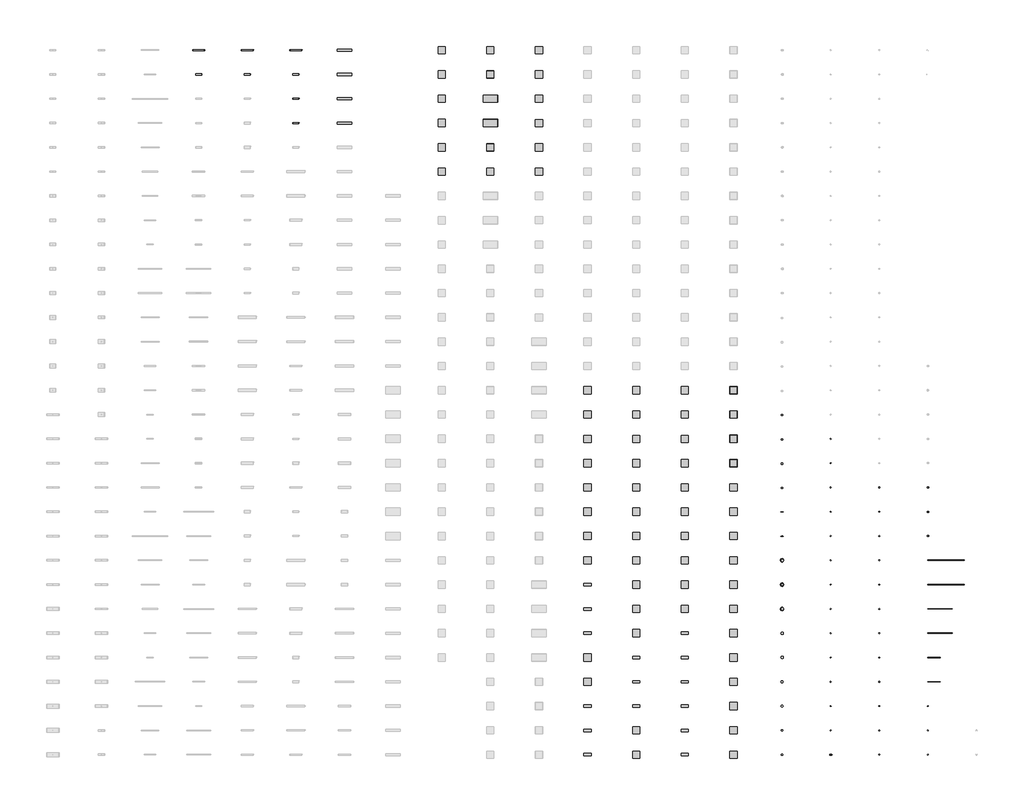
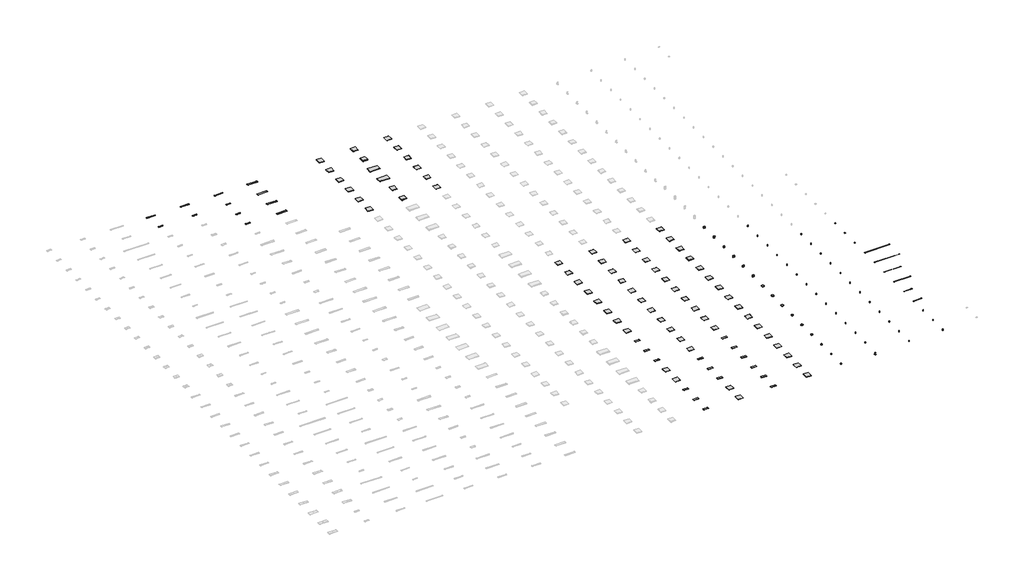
# One storey, part 4 of 7: 147 light fixtures.
"""IFC4 building model written with IfcOpenShell, lengths in millimetres."""

from ifc_helpers import new_model, si_unit, origin, place, context, project, spatial, transform, mapped, element, save
from components import light_fixture_e2a95042, light_fixture_3a991945, light_fixture_01780e7a, light_fixture_d8a4bb4c, light_fixture_4871c609, light_fixture_70e44551, light_fixture_14155fe5, light_fixture_35556cd1, light_fixture_69443bf1, light_fixture_58f65422, light_fixture_37fa3926, light_fixture_e045c9b8, light_fixture_10212c1c, light_fixture_d129a5be, light_fixture_f376c791, light_fixture_1a73ff57, light_fixture_39556fc3, light_fixture_520ac91d, light_fixture_1c399b53, light_fixture_77212832, light_fixture_0b942c4b, light_fixture_b82a3ef1, light_fixture_0e4e240a, light_fixture_68bc1c10, light_fixture_a84a45fd, light_fixture_0315b49b, light_fixture_f49424fd, light_fixture_769b3a39, light_fixture_b95e81a3

model = new_model("IFC4")

# Units and contexts
model_context = context("Model", 3, world=origin())
ifc_project = project(units=[si_unit("LENGTHUNIT", "METRE", prefix="MILLI")], contexts=[model_context])

# Site, building, storey
site = spatial("IfcSite", under=ifc_project)
building = spatial("IfcBuilding", under=site)
storey = spatial("IfcBuildingStorey", under=building, Name="Уровень 1", Elevation=0.0)

# Light fixtures
placement = place(None, origin())
light_fixture_shape = light_fixture_e2a95042(model_context)
element("IfcLightFixture", 1, ObjectType="GENILED_Светильник светодиодный_Titan Advanced : Titan Advanced 500x100x30 30Вт IP66 Матовое закаленное стекло", at=placement, inside=storey, context=model_context, shape_type="MappedRepresentation", body=[
    mapped(light_fixture_shape, transform((32000.0, 56000.0, 0.0), x_axis=(1.0, 0.0, 0.0), y_axis=(0.0, 1.0, 0.0), z_axis=(0.0, 0.0, 1.0))),
])
light_fixture_2_shape = light_fixture_3a991945(model_context)
element("IfcLightFixture", 2, ObjectType="GENILED_Светильник светодиодный_Titan Advanced : Titan Advanced 1000x100x25 40Вт IP66 Опал", at=placement, inside=storey, context=model_context, shape_type="MappedRepresentation", body=[
    mapped(light_fixture_2_shape, transform((32000.0, 58000.0, 0.0), x_axis=(1.0, 0.0, 0.0), y_axis=(0.0, 1.0, 0.0), z_axis=(0.0, 0.0, 1.0))),
])
element("IfcLightFixture", 3, ObjectType="GENILED_Светильник светодиодный_Titan Inox Advanced : Titan Inox Advanced 500x100x30 30Вт IP66 Матовое закаленное стекло", at=placement, inside=storey, context=model_context, shape_type="MappedRepresentation", body=[
    mapped(light_fixture_shape, transform((36000.0, 56000.0, 0.0), x_axis=(1.0, 0.0, 0.0), y_axis=(0.0, 1.0, 0.0), z_axis=(0.0, 0.0, 1.0))),
])
light_fixture_3_shape = light_fixture_01780e7a(model_context)
element("IfcLightFixture", 4, ObjectType="GENILED_Светильник светодиодный_Titan Inox Advanced : Titan Inox Advanced 1000x100x30 40Вт IP66 Матовое закаленное стекло", at=placement, inside=storey, context=model_context, shape_type="MappedRepresentation", body=[
    mapped(light_fixture_3_shape, transform((36000.0, 58000.0, 0.0), x_axis=(1.0, 0.0, 0.0), y_axis=(0.0, 1.0, 0.0), z_axis=(0.0, 0.0, 1.0))),
])
element("IfcLightFixture", 5, ObjectType="GENILED_Светильник светодиодный_Titan Standart : Titan Standart 500x100x30 20Вт IP66 Матовое закаленное стекло", at=placement, inside=storey, context=model_context, shape_type="MappedRepresentation", body=[
    mapped(light_fixture_shape, transform((40000.0, 52000.0, 0.0), x_axis=(1.0, 0.0, 0.0), y_axis=(0.0, 1.0, 0.0), z_axis=(0.0, 0.0, 1.0))),
])
light_fixture_4_shape = light_fixture_d8a4bb4c(model_context)
element("IfcLightFixture", 6, ObjectType="GENILED_Светильник светодиодный_Titan Standart : Titan Standart 500x100x25 30Вт IP66 Опал", at=placement, inside=storey, context=model_context, shape_type="MappedRepresentation", body=[
    mapped(light_fixture_4_shape, transform((40000.0, 54000.0, 0.0), x_axis=(1.0, 0.0, 0.0), y_axis=(0.0, 1.0, 0.0), z_axis=(0.0, 0.0, 1.0))),
])
element("IfcLightFixture", 7, ObjectType="GENILED_Светильник светодиодный_Titan Standart : Titan Standart 500x100x30 30Вт IP66 Матовое закаленное стекло", at=placement, inside=storey, context=model_context, shape_type="MappedRepresentation", body=[
    mapped(light_fixture_shape, transform((40000.0, 56000.0, 0.0), x_axis=(1.0, 0.0, 0.0), y_axis=(0.0, 1.0, 0.0), z_axis=(0.0, 0.0, 1.0))),
])
element("IfcLightFixture", 8, ObjectType="GENILED_Светильник светодиодный_Titan Standart : Titan Standart 1000x100x25 40Вт IP66 Опал", at=placement, inside=storey, context=model_context, shape_type="MappedRepresentation", body=[
    mapped(light_fixture_2_shape, transform((40000.0, 58000.0, 0.0), x_axis=(1.0, 0.0, 0.0), y_axis=(0.0, 1.0, 0.0), z_axis=(0.0, 0.0, 1.0))),
])
light_fixture_5_shape = light_fixture_4871c609(model_context)
element("IfcLightFixture", 9, ObjectType="GENILED_Светильник светодиодный_ЛПО Низковольтный : ЛПО 1200x180x20 60Вт 12В Опал", at=placement, inside=storey, context=model_context, shape_type="MappedRepresentation", body=[
    mapped(light_fixture_5_shape, transform((44000.0, 52000.0, 0.0), x_axis=(1.0, 0.0, 0.0), y_axis=(0.0, 1.0, 0.0), z_axis=(0.0, 0.0, 1.0))),
])
element("IfcLightFixture", 10, ObjectType="GENILED_Светильник светодиодный_ЛПО Низковольтный : ЛПО 1200x180x20 60Вт 24В Опал", at=placement, inside=storey, context=model_context, shape_type="MappedRepresentation", body=[
    mapped(light_fixture_5_shape, transform((44000.0, 54000.0, 0.0), x_axis=(1.0, 0.0, 0.0), y_axis=(0.0, 1.0, 0.0), z_axis=(0.0, 0.0, 1.0))),
])
element("IfcLightFixture", 11, ObjectType="GENILED_Светильник светодиодный_ЛПО Низковольтный : ЛПО 1200x180x20 60Вт 36В Опал", at=placement, inside=storey, context=model_context, shape_type="MappedRepresentation", body=[
    mapped(light_fixture_5_shape, transform((44000.0, 56000.0, 0.0), x_axis=(1.0, 0.0, 0.0), y_axis=(0.0, 1.0, 0.0), z_axis=(0.0, 0.0, 1.0))),
])
element("IfcLightFixture", 12, ObjectType="GENILED_Светильник светодиодный_ЛПО Низковольтный : ЛПО 1200x180x20 80Вт 12В Опал", at=placement, inside=storey, context=model_context, shape_type="MappedRepresentation", body=[
    mapped(light_fixture_5_shape, transform((44000.0, 58000.0, 0.0), x_axis=(1.0, 0.0, 0.0), y_axis=(0.0, 1.0, 0.0), z_axis=(0.0, 0.0, 1.0))),
])
light_fixture_6_shape = light_fixture_70e44551(model_context)
element("IfcLightFixture", 13, ObjectType="GENILED_Светильник светодиодный_Office Clip-In Standart : Office Clip-In Standart 600x600x60 60Вт IP54 Матовое закаленное стекло", at=placement, inside=storey, context=model_context, shape_type="MappedRepresentation", body=[
    mapped(light_fixture_6_shape, transform((52000.0, 48000.0, 0.0), x_axis=(1.0, 0.0, 0.0), y_axis=(0.0, 1.0, 0.0), z_axis=(0.0, 0.0, 1.0))),
])
element("IfcLightFixture", 14, ObjectType="GENILED_Светильник светодиодный_Office Clip-In Standart : Office Clip-In Standart 600x600x60 80Вт IP54 Матовое закаленное стекло", at=placement, inside=storey, context=model_context, shape_type="MappedRepresentation", body=[
    mapped(light_fixture_6_shape, transform((52000.0, 50000.0, 0.0), x_axis=(1.0, 0.0, 0.0), y_axis=(0.0, 1.0, 0.0), z_axis=(0.0, 0.0, 1.0))),
])
element("IfcLightFixture", 15, ObjectType="GENILED_Светильник светодиодный_Office Clip-In Standart : Office Clip-In Standart 600x600x60 100Вт IP54 Матовое закаленное стекло", at=placement, inside=storey, context=model_context, shape_type="MappedRepresentation", body=[
    mapped(light_fixture_6_shape, transform((52000.0, 52000.0, 0.0), x_axis=(1.0, 0.0, 0.0), y_axis=(0.0, 1.0, 0.0), z_axis=(0.0, 0.0, 1.0))),
])
element("IfcLightFixture", 16, ObjectType="GENILED_Светильник светодиодный_Office Clip-In Standart : Office Clip-In Standart 600x600x60 30Вт Матовое закаленное стекло", at=placement, inside=storey, context=model_context, shape_type="MappedRepresentation", body=[
    mapped(light_fixture_6_shape, transform((52000.0, 54000.0, 0.0), x_axis=(1.0, 0.0, 0.0), y_axis=(0.0, 1.0, 0.0), z_axis=(0.0, 0.0, 1.0))),
])
element("IfcLightFixture", 17, ObjectType="GENILED_Светильник светодиодный_Office Clip-In Standart : Office Clip-In Standart 600x600x60 40Вт Матовое закаленное стекло", at=placement, inside=storey, context=model_context, shape_type="MappedRepresentation", body=[
    mapped(light_fixture_6_shape, transform((52000.0, 56000.0, 0.0), x_axis=(1.0, 0.0, 0.0), y_axis=(0.0, 1.0, 0.0), z_axis=(0.0, 0.0, 1.0))),
])
element("IfcLightFixture", 18, ObjectType="GENILED_Светильник светодиодный_Office Clip-In Standart : Office Clip-In Standart 600x600x60 50Вт Матовое закаленное стекло", at=placement, inside=storey, context=model_context, shape_type="MappedRepresentation", body=[
    mapped(light_fixture_6_shape, transform((52000.0, 58000.0, 0.0), x_axis=(1.0, 0.0, 0.0), y_axis=(0.0, 1.0, 0.0), z_axis=(0.0, 0.0, 1.0))),
])
light_fixture_7_shape = light_fixture_14155fe5(model_context)
element("IfcLightFixture", 19, ObjectType="GENILED_Светильник светодиодный_Rockfon Comfort : Office Rockfon Comfort 600x600x70 45Вт Матовое закаленное стекло", at=placement, inside=storey, context=model_context, shape_type="MappedRepresentation", body=[
    mapped(light_fixture_7_shape, transform((56000.0, 48000.0, 0.0), x_axis=(1.0, 0.0, 0.0), y_axis=(0.0, 1.0, 0.0), z_axis=(0.0, 0.0, 1.0))),
])
element("IfcLightFixture", 20, ObjectType="GENILED_Светильник светодиодный_Rockfon Comfort : Office Rockfon Comfort 600x600x70 60Вт Матовое закаленное стекло", at=placement, inside=storey, context=model_context, shape_type="MappedRepresentation", body=[
    mapped(light_fixture_7_shape, transform((56000.0, 50000.0, 0.0), x_axis=(1.0, 0.0, 0.0), y_axis=(0.0, 1.0, 0.0), z_axis=(0.0, 0.0, 1.0))),
])
light_fixture_8_shape = light_fixture_35556cd1(model_context)
element("IfcLightFixture", 21, ObjectType="GENILED_Светильник светодиодный_Rockfon Comfort : Office Rockfon Comfort 1200x600x70 90Вт Опал", at=placement, inside=storey, context=model_context, shape_type="MappedRepresentation", body=[
    mapped(light_fixture_8_shape, transform((56000.0, 52000.0, 0.0), x_axis=(1.0, 0.0, 0.0), y_axis=(0.0, 1.0, 0.0), z_axis=(0.0, 0.0, 1.0))),
])
element("IfcLightFixture", 22, ObjectType="GENILED_Светильник светодиодный_Rockfon Comfort : Office Rockfon Comfort 1200x600x70 120Вт Опал", at=placement, inside=storey, context=model_context, shape_type="MappedRepresentation", body=[
    mapped(light_fixture_8_shape, transform((56000.0, 54000.0, 0.0), x_axis=(1.0, 0.0, 0.0), y_axis=(0.0, 1.0, 0.0), z_axis=(0.0, 0.0, 1.0))),
])
element("IfcLightFixture", 23, ObjectType="GENILED_Светильник светодиодный_Rockfon Standart : Office Rockfon Standart 600x600x70 30Вт Матовое закаленное стекло", at=placement, inside=storey, context=model_context, shape_type="MappedRepresentation", body=[
    mapped(light_fixture_7_shape, transform((56000.0, 56000.0, 0.0), x_axis=(1.0, 0.0, 0.0), y_axis=(0.0, 1.0, 0.0), z_axis=(0.0, 0.0, 1.0))),
])
element("IfcLightFixture", 24, ObjectType="GENILED_Светильник светодиодный_Rockfon Standart : Office Rockfon Standart 600x600x70 40Вт Матовое закаленное стекло", at=placement, inside=storey, context=model_context, shape_type="MappedRepresentation", body=[
    mapped(light_fixture_7_shape, transform((56000.0, 58000.0, 0.0), x_axis=(1.0, 0.0, 0.0), y_axis=(0.0, 1.0, 0.0), z_axis=(0.0, 0.0, 1.0))),
])
light_fixture_9_shape = light_fixture_69443bf1(model_context)
element("IfcLightFixture", 25, ObjectType="GENILED_Светильник светодиодный_Грильято Standart : Грильято Standart 588x588x20 60Вт 90Ra Опал", at=placement, inside=storey, context=model_context, shape_type="MappedRepresentation", body=[
    mapped(light_fixture_9_shape, transform((60000.0, 48000.0, 0.0), x_axis=(1.0, 0.0, 0.0), y_axis=(0.0, 1.0, 0.0), z_axis=(0.0, 0.0, 1.0))),
])
element("IfcLightFixture", 26, ObjectType="GENILED_Светильник светодиодный_Грильято Standart : Грильято Standart 588x588x20 30Вт 90Ra Опал", at=placement, inside=storey, context=model_context, shape_type="MappedRepresentation", body=[
    mapped(light_fixture_9_shape, transform((60000.0, 50000.0, 0.0), x_axis=(1.0, 0.0, 0.0), y_axis=(0.0, 1.0, 0.0), z_axis=(0.0, 0.0, 1.0))),
])
element("IfcLightFixture", 27, ObjectType="GENILED_Светильник светодиодный_Грильято Standart : Грильято Standart 588x588x20 40Вт 90Ra Опал", at=placement, inside=storey, context=model_context, shape_type="MappedRepresentation", body=[
    mapped(light_fixture_9_shape, transform((60000.0, 52000.0, 0.0), x_axis=(1.0, 0.0, 0.0), y_axis=(0.0, 1.0, 0.0), z_axis=(0.0, 0.0, 1.0))),
])
element("IfcLightFixture", 28, ObjectType="GENILED_Светильник светодиодный_Грильято Standart : Грильято Standart 588x588x20 50Вт 90Ra Опал", at=placement, inside=storey, context=model_context, shape_type="MappedRepresentation", body=[
    mapped(light_fixture_9_shape, transform((60000.0, 54000.0, 0.0), x_axis=(1.0, 0.0, 0.0), y_axis=(0.0, 1.0, 0.0), z_axis=(0.0, 0.0, 1.0))),
])
light_fixture_10_shape = light_fixture_58f65422(model_context)
element("IfcLightFixture", 29, ObjectType="GENILED_Светильник светодиодный_Офис Basic : Офис Basic 596x592x20 30Вт 4000К Опал", at=placement, inside=storey, context=model_context, shape_type="MappedRepresentation", body=[
    mapped(light_fixture_10_shape, transform((60000.0, 56000.0, 0.0), x_axis=(1.0, 0.0, 0.0), y_axis=(0.0, 1.0, 0.0), z_axis=(0.0, 0.0, 1.0))),
])
element("IfcLightFixture", 30, ObjectType="GENILED_Светильник светодиодный_Офис Basic : Офис Basic 596x592x20 40Вт 4000К Опал", at=placement, inside=storey, context=model_context, shape_type="MappedRepresentation", body=[
    mapped(light_fixture_10_shape, transform((60000.0, 58000.0, 0.0), x_axis=(1.0, 0.0, 0.0), y_axis=(0.0, 1.0, 0.0), z_axis=(0.0, 0.0, 1.0))),
])
light_fixture_11_shape = light_fixture_37fa3926(model_context)
element("IfcLightFixture", 31, ObjectType="GENILED_Светильник светодиодный_Офис Basic : Офис Basic 596x178x20 20Вт 4000К Опал", at=placement, inside=storey, context=model_context, shape_type="MappedRepresentation", body=[
    mapped(light_fixture_11_shape, transform((64000.0, 0.0, 0.0), x_axis=(1.0, 0.0, 0.0), y_axis=(0.0, 1.0, 0.0), z_axis=(0.0, 0.0, 1.0))),
])
element("IfcLightFixture", 32, ObjectType="GENILED_Светильник светодиодный_Офис Basic : Офис Basic 596х178х20 20Вт 4000К Микропризма", at=placement, inside=storey, context=model_context, shape_type="MappedRepresentation", body=[
    mapped(light_fixture_11_shape, transform((64000.0, 2000.0, 0.0), x_axis=(1.0, 0.0, 0.0), y_axis=(0.0, 1.0, 0.0), z_axis=(0.0, 0.0, 1.0))),
])
element("IfcLightFixture", 33, ObjectType="GENILED_Светильник светодиодный_Офис Basic : Офис Basic 596x178x20 30Вт 4000К Опал", at=placement, inside=storey, context=model_context, shape_type="MappedRepresentation", body=[
    mapped(light_fixture_11_shape, transform((64000.0, 4000.0, 0.0), x_axis=(1.0, 0.0, 0.0), y_axis=(0.0, 1.0, 0.0), z_axis=(0.0, 0.0, 1.0))),
])
element("IfcLightFixture", 34, ObjectType="GENILED_Светильник светодиодный_Офис Basic : Офис Basic 596x592x20 30Вт Ra90 4000К Опал", at=placement, inside=storey, context=model_context, shape_type="MappedRepresentation", body=[
    mapped(light_fixture_10_shape, transform((64000.0, 6000.0, 0.0), x_axis=(1.0, 0.0, 0.0), y_axis=(0.0, 1.0, 0.0), z_axis=(0.0, 0.0, 1.0))),
])
element("IfcLightFixture", 35, ObjectType="GENILED_Светильник светодиодный_Офис Basic : Офис Basic 596x592x20 40Вт Ra90 4000К Опал", at=placement, inside=storey, context=model_context, shape_type="MappedRepresentation", body=[
    mapped(light_fixture_10_shape, transform((64000.0, 8000.0, 0.0), x_axis=(1.0, 0.0, 0.0), y_axis=(0.0, 1.0, 0.0), z_axis=(0.0, 0.0, 1.0))),
])
element("IfcLightFixture", 36, ObjectType="GENILED_Светильник светодиодный_Офис Basic : Офис Basic 596х178х20 20Вт Ra90 4000К Опал", at=placement, inside=storey, context=model_context, shape_type="MappedRepresentation", body=[
    mapped(light_fixture_11_shape, transform((64000.0, 10000.0, 0.0), x_axis=(1.0, 0.0, 0.0), y_axis=(0.0, 1.0, 0.0), z_axis=(0.0, 0.0, 1.0))),
])
element("IfcLightFixture", 37, ObjectType="GENILED_Светильник светодиодный_Офис Basic : Офис Basic 596x178x20 20Вт Ra90 4000К Микропризма", at=placement, inside=storey, context=model_context, shape_type="MappedRepresentation", body=[
    mapped(light_fixture_11_shape, transform((64000.0, 12000.0, 0.0), x_axis=(1.0, 0.0, 0.0), y_axis=(0.0, 1.0, 0.0), z_axis=(0.0, 0.0, 1.0))),
])
element("IfcLightFixture", 38, ObjectType="GENILED_Светильник светодиодный_Офис Basic : Офис Basic 596x178x20 30Вт Ra90 4000К Опал", at=placement, inside=storey, context=model_context, shape_type="MappedRepresentation", body=[
    mapped(light_fixture_11_shape, transform((64000.0, 14000.0, 0.0), x_axis=(1.0, 0.0, 0.0), y_axis=(0.0, 1.0, 0.0), z_axis=(0.0, 0.0, 1.0))),
])
light_fixture_12_shape = light_fixture_e045c9b8(model_context)
element("IfcLightFixture", 39, ObjectType="GENILED_Светильник светодиодный_Офис Comfort : Office Comfort 595x595x60 45Вт Ra90 Опал", at=placement, inside=storey, context=model_context, shape_type="MappedRepresentation", body=[
    mapped(light_fixture_12_shape, transform((64000.0, 16000.0, 0.0), x_axis=(1.0, 0.0, 0.0), y_axis=(0.0, 1.0, 0.0), z_axis=(0.0, 0.0, 1.0))),
])
element("IfcLightFixture", 40, ObjectType="GENILED_Светильник светодиодный_Офис Comfort : Office Comfort 595x595x60 60Вт Ra90 Опал", at=placement, inside=storey, context=model_context, shape_type="MappedRepresentation", body=[
    mapped(light_fixture_12_shape, transform((64000.0, 18000.0, 0.0), x_axis=(1.0, 0.0, 0.0), y_axis=(0.0, 1.0, 0.0), z_axis=(0.0, 0.0, 1.0))),
])
element("IfcLightFixture", 41, ObjectType="GENILED_Светильник светодиодный_Офис Comfort : Office Comfort 595x595x60 75Вт Ra90 Опал", at=placement, inside=storey, context=model_context, shape_type="MappedRepresentation", body=[
    mapped(light_fixture_12_shape, transform((64000.0, 20000.0, 0.0), x_axis=(1.0, 0.0, 0.0), y_axis=(0.0, 1.0, 0.0), z_axis=(0.0, 0.0, 1.0))),
])
element("IfcLightFixture", 42, ObjectType="GENILED_Светильник светодиодный_Офис Comfort : Office Comfort 595x595x60 90Вт Ra90 Опал", at=placement, inside=storey, context=model_context, shape_type="MappedRepresentation", body=[
    mapped(light_fixture_12_shape, transform((64000.0, 22000.0, 0.0), x_axis=(1.0, 0.0, 0.0), y_axis=(0.0, 1.0, 0.0), z_axis=(0.0, 0.0, 1.0))),
])
element("IfcLightFixture", 43, ObjectType="GENILED_Светильник светодиодный_Офис Comfort : Office Comfort 595x595x60 45Вт Ra90 IP54 Опал", at=placement, inside=storey, context=model_context, shape_type="MappedRepresentation", body=[
    mapped(light_fixture_12_shape, transform((64000.0, 24000.0, 0.0), x_axis=(1.0, 0.0, 0.0), y_axis=(0.0, 1.0, 0.0), z_axis=(0.0, 0.0, 1.0))),
])
element("IfcLightFixture", 44, ObjectType="GENILED_Светильник светодиодный_Офис Comfort : Office Comfort 595x595x60 60Вт Ra90 IP54 Опал", at=placement, inside=storey, context=model_context, shape_type="MappedRepresentation", body=[
    mapped(light_fixture_12_shape, transform((64000.0, 26000.0, 0.0), x_axis=(1.0, 0.0, 0.0), y_axis=(0.0, 1.0, 0.0), z_axis=(0.0, 0.0, 1.0))),
])
element("IfcLightFixture", 45, ObjectType="GENILED_Светильник светодиодный_Офис Standart : Офис Standart 595x595x20 30Вт Ra90 Опал", at=placement, inside=storey, context=model_context, shape_type="MappedRepresentation", body=[
    mapped(light_fixture_10_shape, transform((64000.0, 28000.0, 0.0), x_axis=(1.0, 0.0, 0.0), y_axis=(0.0, 1.0, 0.0), z_axis=(0.0, 0.0, 1.0))),
])
element("IfcLightFixture", 46, ObjectType="GENILED_Светильник светодиодный_Офис Standart : Офис Standart 595x595x20 40Вт Ra90 Опал", at=placement, inside=storey, context=model_context, shape_type="MappedRepresentation", body=[
    mapped(light_fixture_10_shape, transform((64000.0, 30000.0, 0.0), x_axis=(1.0, 0.0, 0.0), y_axis=(0.0, 1.0, 0.0), z_axis=(0.0, 0.0, 1.0))),
])
light_fixture_13_shape = light_fixture_10212c1c(model_context)
element("IfcLightFixture", 47, ObjectType="GENILED_Светильник светодиодный_Офис Standart : Офис Standart 595x595x45 80Вт Ra90 IP54 Опал", at=placement, inside=storey, context=model_context, shape_type="MappedRepresentation", body=[
    mapped(light_fixture_13_shape, transform((68000.0, 0.0, 0.0), x_axis=(1.0, 0.0, 0.0), y_axis=(0.0, 1.0, 0.0), z_axis=(0.0, 0.0, 1.0))),
])
element("IfcLightFixture", 48, ObjectType="GENILED_Светильник светодиодный_Офис Standart : Офис Standart 595x595x45 100Вт Ra90 IP54 Опал", at=placement, inside=storey, context=model_context, shape_type="MappedRepresentation", body=[
    mapped(light_fixture_13_shape, transform((68000.0, 2000.0, 0.0), x_axis=(1.0, 0.0, 0.0), y_axis=(0.0, 1.0, 0.0), z_axis=(0.0, 0.0, 1.0))),
])
light_fixture_14_shape = light_fixture_d129a5be(model_context)
element("IfcLightFixture", 49, ObjectType="GENILED_Светильник светодиодный_Офис Standart : Офис Standart 595x200x40 20Вт Ra90 Опал", at=placement, inside=storey, context=model_context, shape_type="MappedRepresentation", body=[
    mapped(light_fixture_14_shape, transform((68000.0, 4000.0, 0.0), x_axis=(1.0, 0.0, 0.0), y_axis=(0.0, 1.0, 0.0), z_axis=(0.0, 0.0, 1.0))),
])
element("IfcLightFixture", 50, ObjectType="GENILED_Светильник светодиодный_Офис Standart : Офис Standart 595x200x40 30Вт Ra90 Опал", at=placement, inside=storey, context=model_context, shape_type="MappedRepresentation", body=[
    mapped(light_fixture_14_shape, transform((68000.0, 6000.0, 0.0), x_axis=(1.0, 0.0, 0.0), y_axis=(0.0, 1.0, 0.0), z_axis=(0.0, 0.0, 1.0))),
])
element("IfcLightFixture", 51, ObjectType="GENILED_Светильник светодиодный_Офис Standart : Офис Standart 595x200x40 40Вт Ra90 Опал", at=placement, inside=storey, context=model_context, shape_type="MappedRepresentation", body=[
    mapped(light_fixture_14_shape, transform((68000.0, 8000.0, 0.0), x_axis=(1.0, 0.0, 0.0), y_axis=(0.0, 1.0, 0.0), z_axis=(0.0, 0.0, 1.0))),
])
element("IfcLightFixture", 52, ObjectType="GENILED_Светильник светодиодный_Офис Standart : Офис Standart 595x595x20 30Вт Опал", at=placement, inside=storey, context=model_context, shape_type="MappedRepresentation", body=[
    mapped(light_fixture_10_shape, transform((68000.0, 10000.0, 0.0), x_axis=(1.0, 0.0, 0.0), y_axis=(0.0, 1.0, 0.0), z_axis=(0.0, 0.0, 1.0))),
])
element("IfcLightFixture", 53, ObjectType="GENILED_Светильник светодиодный_Офис Standart : Офис Standart 595x595x20 40Вт Опал", at=placement, inside=storey, context=model_context, shape_type="MappedRepresentation", body=[
    mapped(light_fixture_10_shape, transform((68000.0, 12000.0, 0.0), x_axis=(1.0, 0.0, 0.0), y_axis=(0.0, 1.0, 0.0), z_axis=(0.0, 0.0, 1.0))),
])
element("IfcLightFixture", 54, ObjectType="GENILED_Светильник светодиодный_Офис Standart : Офис Standart 595x595x20 50Вт Опал", at=placement, inside=storey, context=model_context, shape_type="MappedRepresentation", body=[
    mapped(light_fixture_10_shape, transform((68000.0, 14000.0, 0.0), x_axis=(1.0, 0.0, 0.0), y_axis=(0.0, 1.0, 0.0), z_axis=(0.0, 0.0, 1.0))),
])
element("IfcLightFixture", 55, ObjectType="GENILED_Светильник светодиодный_Офис Standart : Офис Standart 595x595x20 60Вт Опал", at=placement, inside=storey, context=model_context, shape_type="MappedRepresentation", body=[
    mapped(light_fixture_10_shape, transform((68000.0, 16000.0, 0.0), x_axis=(1.0, 0.0, 0.0), y_axis=(0.0, 1.0, 0.0), z_axis=(0.0, 0.0, 1.0))),
])
element("IfcLightFixture", 56, ObjectType="GENILED_Светильник светодиодный_Офис Standart : Офис Standart 595x595x20 80Вт Опал", at=placement, inside=storey, context=model_context, shape_type="MappedRepresentation", body=[
    mapped(light_fixture_10_shape, transform((68000.0, 18000.0, 0.0), x_axis=(1.0, 0.0, 0.0), y_axis=(0.0, 1.0, 0.0), z_axis=(0.0, 0.0, 1.0))),
])
element("IfcLightFixture", 57, ObjectType="GENILED_Светильник светодиодный_Офис Standart : Офис Standart 595x595x20 100Вт Опал", at=placement, inside=storey, context=model_context, shape_type="MappedRepresentation", body=[
    mapped(light_fixture_10_shape, transform((68000.0, 20000.0, 0.0), x_axis=(1.0, 0.0, 0.0), y_axis=(0.0, 1.0, 0.0), z_axis=(0.0, 0.0, 1.0))),
])
light_fixture_15_shape = light_fixture_f376c791(model_context)
element("IfcLightFixture", 58, ObjectType="GENILED_Светильник светодиодный_Офис Standart : Офис Standart 595х595х25 30Вт IP54 Опал", at=placement, inside=storey, context=model_context, shape_type="MappedRepresentation", body=[
    mapped(light_fixture_15_shape, transform((68000.0, 22000.0, 0.0), x_axis=(1.0, 0.0, 0.0), y_axis=(0.0, 1.0, 0.0), z_axis=(0.0, 0.0, 1.0))),
])
element("IfcLightFixture", 59, ObjectType="GENILED_Светильник светодиодный_Офис Standart : Офис Standart 595x595x25 30Вт IP54 Микропризма", at=placement, inside=storey, context=model_context, shape_type="MappedRepresentation", body=[
    mapped(light_fixture_15_shape, transform((68000.0, 24000.0, 0.0), x_axis=(1.0, 0.0, 0.0), y_axis=(0.0, 1.0, 0.0), z_axis=(0.0, 0.0, 1.0))),
])
element("IfcLightFixture", 60, ObjectType="GENILED_Светильник светодиодный_Офис Standart : Офис Standart 595x595x25 40Вт IP54 Опал", at=placement, inside=storey, context=model_context, shape_type="MappedRepresentation", body=[
    mapped(light_fixture_15_shape, transform((68000.0, 26000.0, 0.0), x_axis=(1.0, 0.0, 0.0), y_axis=(0.0, 1.0, 0.0), z_axis=(0.0, 0.0, 1.0))),
])
element("IfcLightFixture", 61, ObjectType="GENILED_Светильник светодиодный_Офис Standart : Офис Standart 595х595х25 40Вт IP54 Опал", at=placement, inside=storey, context=model_context, shape_type="MappedRepresentation", body=[
    mapped(light_fixture_15_shape, transform((68000.0, 28000.0, 0.0), x_axis=(1.0, 0.0, 0.0), y_axis=(0.0, 1.0, 0.0), z_axis=(0.0, 0.0, 1.0))),
])
element("IfcLightFixture", 62, ObjectType="GENILED_Светильник светодиодный_Офис Standart : Офис Standart 595x595x25 50Вт IP54 Опал", at=placement, inside=storey, context=model_context, shape_type="MappedRepresentation", body=[
    mapped(light_fixture_15_shape, transform((68000.0, 30000.0, 0.0), x_axis=(1.0, 0.0, 0.0), y_axis=(0.0, 1.0, 0.0), z_axis=(0.0, 0.0, 1.0))),
])
element("IfcLightFixture", 63, ObjectType="GENILED_Светильник светодиодный_Офис Standart : Офис Standart 595x200x40 20Вт Опал", at=placement, inside=storey, context=model_context, shape_type="MappedRepresentation", body=[
    mapped(light_fixture_14_shape, transform((72000.0, 0.0, 0.0), x_axis=(1.0, 0.0, 0.0), y_axis=(0.0, 1.0, 0.0), z_axis=(0.0, 0.0, 1.0))),
])
element("IfcLightFixture", 64, ObjectType="GENILED_Светильник светодиодный_Офис Standart : Офис Standart 595x200x40 30Вт Опал", at=placement, inside=storey, context=model_context, shape_type="MappedRepresentation", body=[
    mapped(light_fixture_14_shape, transform((72000.0, 2000.0, 0.0), x_axis=(1.0, 0.0, 0.0), y_axis=(0.0, 1.0, 0.0), z_axis=(0.0, 0.0, 1.0))),
])
element("IfcLightFixture", 65, ObjectType="GENILED_Светильник светодиодный_Офис Standart : Офис Standart 595x200x40 40Вт Опал", at=placement, inside=storey, context=model_context, shape_type="MappedRepresentation", body=[
    mapped(light_fixture_14_shape, transform((72000.0, 4000.0, 0.0), x_axis=(1.0, 0.0, 0.0), y_axis=(0.0, 1.0, 0.0), z_axis=(0.0, 0.0, 1.0))),
])
light_fixture_16_shape = light_fixture_1a73ff57(model_context)
element("IfcLightFixture", 66, ObjectType="GENILED_Светильник светодиодный_Офис Standart : Офис Standart 595x200x45 20Вт IP54 Опал", at=placement, inside=storey, context=model_context, shape_type="MappedRepresentation", body=[
    mapped(light_fixture_16_shape, transform((72000.0, 6000.0, 0.0), x_axis=(1.0, 0.0, 0.0), y_axis=(0.0, 1.0, 0.0), z_axis=(0.0, 0.0, 1.0))),
])
element("IfcLightFixture", 67, ObjectType="GENILED_Светильник светодиодный_Офис Standart : Офис Standart 595x200x45 30Вт IP54 Опал", at=placement, inside=storey, context=model_context, shape_type="MappedRepresentation", body=[
    mapped(light_fixture_16_shape, transform((72000.0, 8000.0, 0.0), x_axis=(1.0, 0.0, 0.0), y_axis=(0.0, 1.0, 0.0), z_axis=(0.0, 0.0, 1.0))),
])
element("IfcLightFixture", 68, ObjectType="GENILED_Светильник светодиодный_Офис Standart : Офис Standart 595x200x45 40Вт IP54 Опал", at=placement, inside=storey, context=model_context, shape_type="MappedRepresentation", body=[
    mapped(light_fixture_16_shape, transform((72000.0, 10000.0, 0.0), x_axis=(1.0, 0.0, 0.0), y_axis=(0.0, 1.0, 0.0), z_axis=(0.0, 0.0, 1.0))),
])
element("IfcLightFixture", 69, ObjectType="GENILED_Светильник светодиодный_Офис Низковольтный : Офис 595x595x20 30Вт 12В Опал", at=placement, inside=storey, context=model_context, shape_type="MappedRepresentation", body=[
    mapped(light_fixture_10_shape, transform((72000.0, 12000.0, 0.0), x_axis=(1.0, 0.0, 0.0), y_axis=(0.0, 1.0, 0.0), z_axis=(0.0, 0.0, 1.0))),
])
element("IfcLightFixture", 70, ObjectType="GENILED_Светильник светодиодный_Офис Низковольтный : Офис 595x595x20 30Вт 36В Опал", at=placement, inside=storey, context=model_context, shape_type="MappedRepresentation", body=[
    mapped(light_fixture_10_shape, transform((72000.0, 14000.0, 0.0), x_axis=(1.0, 0.0, 0.0), y_axis=(0.0, 1.0, 0.0), z_axis=(0.0, 0.0, 1.0))),
])
element("IfcLightFixture", 71, ObjectType="GENILED_Светильник светодиодный_Офис Низковольтный : Офис 595x595x20 40Вт 12В Опал", at=placement, inside=storey, context=model_context, shape_type="MappedRepresentation", body=[
    mapped(light_fixture_10_shape, transform((72000.0, 16000.0, 0.0), x_axis=(1.0, 0.0, 0.0), y_axis=(0.0, 1.0, 0.0), z_axis=(0.0, 0.0, 1.0))),
])
element("IfcLightFixture", 72, ObjectType="GENILED_Светильник светодиодный_Офис Низковольтный : Офис 595x595x20 40Вт 24В Опал", at=placement, inside=storey, context=model_context, shape_type="MappedRepresentation", body=[
    mapped(light_fixture_10_shape, transform((72000.0, 18000.0, 0.0), x_axis=(1.0, 0.0, 0.0), y_axis=(0.0, 1.0, 0.0), z_axis=(0.0, 0.0, 1.0))),
])
element("IfcLightFixture", 73, ObjectType="GENILED_Светильник светодиодный_Офис Низковольтный : Офис 595x595x20 50Вт 12В Опал", at=placement, inside=storey, context=model_context, shape_type="MappedRepresentation", body=[
    mapped(light_fixture_10_shape, transform((72000.0, 20000.0, 0.0), x_axis=(1.0, 0.0, 0.0), y_axis=(0.0, 1.0, 0.0), z_axis=(0.0, 0.0, 1.0))),
])
element("IfcLightFixture", 74, ObjectType="GENILED_Светильник светодиодный_Офис Низковольтный : Офис 595x595x20 60Вт 12В Опал", at=placement, inside=storey, context=model_context, shape_type="MappedRepresentation", body=[
    mapped(light_fixture_10_shape, transform((72000.0, 22000.0, 0.0), x_axis=(1.0, 0.0, 0.0), y_axis=(0.0, 1.0, 0.0), z_axis=(0.0, 0.0, 1.0))),
])
element("IfcLightFixture", 75, ObjectType="GENILED_Светильник светодиодный_Офис Низковольтный : Офис 595x595x20 60Вт 24В Опал", at=placement, inside=storey, context=model_context, shape_type="MappedRepresentation", body=[
    mapped(light_fixture_10_shape, transform((72000.0, 24000.0, 0.0), x_axis=(1.0, 0.0, 0.0), y_axis=(0.0, 1.0, 0.0), z_axis=(0.0, 0.0, 1.0))),
])
element("IfcLightFixture", 76, ObjectType="GENILED_Светильник светодиодный_Офис Низковольтный : Офис 595x595x20 60Вт 36В Опал", at=placement, inside=storey, context=model_context, shape_type="MappedRepresentation", body=[
    mapped(light_fixture_10_shape, transform((72000.0, 26000.0, 0.0), x_axis=(1.0, 0.0, 0.0), y_axis=(0.0, 1.0, 0.0), z_axis=(0.0, 0.0, 1.0))),
])
element("IfcLightFixture", 77, ObjectType="GENILED_Светильник светодиодный_Офис Низковольтный : Офис 595x595x20 80Вт 12В Опал", at=placement, inside=storey, context=model_context, shape_type="MappedRepresentation", body=[
    mapped(light_fixture_10_shape, transform((72000.0, 28000.0, 0.0), x_axis=(1.0, 0.0, 0.0), y_axis=(0.0, 1.0, 0.0), z_axis=(0.0, 0.0, 1.0))),
])
element("IfcLightFixture", 78, ObjectType="GENILED_Светильник светодиодный_Офис Низковольтный : Офис 595x595x20 80Вт 24В Опал", at=placement, inside=storey, context=model_context, shape_type="MappedRepresentation", body=[
    mapped(light_fixture_10_shape, transform((72000.0, 30000.0, 0.0), x_axis=(1.0, 0.0, 0.0), y_axis=(0.0, 1.0, 0.0), z_axis=(0.0, 0.0, 1.0))),
])
element("IfcLightFixture", 79, ObjectType="GENILED_Светильник светодиодный_Офис Низковольтный : Офис 595x595x45 30Вт 12В IP54 Опал", at=placement, inside=storey, context=model_context, shape_type="MappedRepresentation", body=[
    mapped(light_fixture_13_shape, transform((76000.0, 0.0, 0.0), x_axis=(1.0, 0.0, 0.0), y_axis=(0.0, 1.0, 0.0), z_axis=(0.0, 0.0, 1.0))),
])
element("IfcLightFixture", 80, ObjectType="GENILED_Светильник светодиодный_Офис Низковольтный : Офис 595x595x45 30Вт 36В IP54 Опал", at=placement, inside=storey, context=model_context, shape_type="MappedRepresentation", body=[
    mapped(light_fixture_13_shape, transform((76000.0, 2000.0, 0.0), x_axis=(1.0, 0.0, 0.0), y_axis=(0.0, 1.0, 0.0), z_axis=(0.0, 0.0, 1.0))),
])
element("IfcLightFixture", 81, ObjectType="GENILED_Светильник светодиодный_Офис Низковольтный : Офис 595x595x45 40Вт 24В IP54 Опал", at=placement, inside=storey, context=model_context, shape_type="MappedRepresentation", body=[
    mapped(light_fixture_13_shape, transform((76000.0, 4000.0, 0.0), x_axis=(1.0, 0.0, 0.0), y_axis=(0.0, 1.0, 0.0), z_axis=(0.0, 0.0, 1.0))),
])
element("IfcLightFixture", 82, ObjectType="GENILED_Светильник светодиодный_Офис Низковольтный : Офис 595x595x45 40Вт 12В IP54 Опал", at=placement, inside=storey, context=model_context, shape_type="MappedRepresentation", body=[
    mapped(light_fixture_13_shape, transform((76000.0, 6000.0, 0.0), x_axis=(1.0, 0.0, 0.0), y_axis=(0.0, 1.0, 0.0), z_axis=(0.0, 0.0, 1.0))),
])
element("IfcLightFixture", 83, ObjectType="GENILED_Светильник светодиодный_Офис Низковольтный : Офис 595x595x45 50Вт 12В IP54 Опал", at=placement, inside=storey, context=model_context, shape_type="MappedRepresentation", body=[
    mapped(light_fixture_13_shape, transform((76000.0, 8000.0, 0.0), x_axis=(1.0, 0.0, 0.0), y_axis=(0.0, 1.0, 0.0), z_axis=(0.0, 0.0, 1.0))),
])
element("IfcLightFixture", 84, ObjectType="GENILED_Светильник светодиодный_Офис Низковольтный : Офис 595x595x45 60Вт 24В IP54 Опал", at=placement, inside=storey, context=model_context, shape_type="MappedRepresentation", body=[
    mapped(light_fixture_13_shape, transform((76000.0, 10000.0, 0.0), x_axis=(1.0, 0.0, 0.0), y_axis=(0.0, 1.0, 0.0), z_axis=(0.0, 0.0, 1.0))),
])
element("IfcLightFixture", 85, ObjectType="GENILED_Светильник светодиодный_Офис Низковольтный : Офис 595x595x45 60Вт 36В IP54 Опал", at=placement, inside=storey, context=model_context, shape_type="MappedRepresentation", body=[
    mapped(light_fixture_13_shape, transform((76000.0, 12000.0, 0.0), x_axis=(1.0, 0.0, 0.0), y_axis=(0.0, 1.0, 0.0), z_axis=(0.0, 0.0, 1.0))),
])
element("IfcLightFixture", 86, ObjectType="GENILED_Светильник светодиодный_Офис Низковольтный : Офис 595x595x45 60Вт 12В IP54 Опал", at=placement, inside=storey, context=model_context, shape_type="MappedRepresentation", body=[
    mapped(light_fixture_13_shape, transform((76000.0, 14000.0, 0.0), x_axis=(1.0, 0.0, 0.0), y_axis=(0.0, 1.0, 0.0), z_axis=(0.0, 0.0, 1.0))),
])
element("IfcLightFixture", 87, ObjectType="GENILED_Светильник светодиодный_Офис Низковольтный : Офис 595x595x45 80Вт 24В IP54 Опал", at=placement, inside=storey, context=model_context, shape_type="MappedRepresentation", body=[
    mapped(light_fixture_13_shape, transform((76000.0, 16000.0, 0.0), x_axis=(1.0, 0.0, 0.0), y_axis=(0.0, 1.0, 0.0), z_axis=(0.0, 0.0, 1.0))),
])
element("IfcLightFixture", 88, ObjectType="GENILED_Светильник светодиодный_Офис Низковольтный : Офис 595x595x45 80Вт 12В IP54 Опал", at=placement, inside=storey, context=model_context, shape_type="MappedRepresentation", body=[
    mapped(light_fixture_13_shape, transform((76000.0, 18000.0, 0.0), x_axis=(1.0, 0.0, 0.0), y_axis=(0.0, 1.0, 0.0), z_axis=(0.0, 0.0, 1.0))),
])
element("IfcLightFixture", 89, ObjectType="GENILED_Светильник светодиодный_Офис Низковольтный : Офис 595x595x45 100Вт 24В IP54 Опал", at=placement, inside=storey, context=model_context, shape_type="MappedRepresentation", body=[
    mapped(light_fixture_13_shape, transform((76000.0, 20000.0, 0.0), x_axis=(1.0, 0.0, 0.0), y_axis=(0.0, 1.0, 0.0), z_axis=(0.0, 0.0, 1.0))),
])
element("IfcLightFixture", 90, ObjectType="GENILED_Светильник светодиодный_Офис Низковольтный : Офис 595x595x45 100Вт 12В IP54 Опал", at=placement, inside=storey, context=model_context, shape_type="MappedRepresentation", body=[
    mapped(light_fixture_13_shape, transform((76000.0, 22000.0, 0.0), x_axis=(1.0, 0.0, 0.0), y_axis=(0.0, 1.0, 0.0), z_axis=(0.0, 0.0, 1.0))),
])
light_fixture_17_shape = light_fixture_39556fc3(model_context)
element("IfcLightFixture", 91, ObjectType="GENILED_Светильник светодиодный_Экофон Advanced : Экофон Advanced 30Вт Опал", at=placement, inside=storey, context=model_context, shape_type="MappedRepresentation", body=[
    mapped(light_fixture_17_shape, transform((76000.0, 24000.0, 0.0), x_axis=(1.0, 0.0, 0.0), y_axis=(0.0, 1.0, 0.0), z_axis=(0.0, 0.0, 1.0))),
])
element("IfcLightFixture", 92, ObjectType="GENILED_Светильник светодиодный_Экофон Advanced : Экофон Advanced 40Вт Опал", at=placement, inside=storey, context=model_context, shape_type="MappedRepresentation", body=[
    mapped(light_fixture_17_shape, transform((76000.0, 26000.0, 0.0), x_axis=(1.0, 0.0, 0.0), y_axis=(0.0, 1.0, 0.0), z_axis=(0.0, 0.0, 1.0))),
])
element("IfcLightFixture", 93, ObjectType="GENILED_Светильник светодиодный_Экофон Advanced : Экофон Advanced 50Вт Опал", at=placement, inside=storey, context=model_context, shape_type="MappedRepresentation", body=[
    mapped(light_fixture_17_shape, transform((76000.0, 28000.0, 0.0), x_axis=(1.0, 0.0, 0.0), y_axis=(0.0, 1.0, 0.0), z_axis=(0.0, 0.0, 1.0))),
])
element("IfcLightFixture", 94, ObjectType="GENILED_Светильник светодиодный_Экофон Advanced : Экофон Advanced 60Вт Опал", at=placement, inside=storey, context=model_context, shape_type="MappedRepresentation", body=[
    mapped(light_fixture_17_shape, transform((76000.0, 30000.0, 0.0), x_axis=(1.0, 0.0, 0.0), y_axis=(0.0, 1.0, 0.0), z_axis=(0.0, 0.0, 1.0))),
])
light_fixture_18_shape = light_fixture_520ac91d(model_context)
element("IfcLightFixture", 95, ObjectType="GENILED_Светильник светодиодный_Ceiling Накладной : Сейлинг накладного монтажа d138 h60 10Вт 90Ra", at=placement, inside=storey, context=model_context, shape_type="MappedRepresentation", body=[
    mapped(light_fixture_18_shape, transform((80000.0, 0.0, 0.0), x_axis=(1.0, 0.0, 0.0), y_axis=(0.0, 1.0, 0.0), z_axis=(0.0, 0.0, 1.0))),
])
element("IfcLightFixture", 96, ObjectType="GENILED_Светильник светодиодный_Ceiling Накладной : Сейлинг накладного монтажа d138 h60 10Вт 90Ra Белый", at=placement, inside=storey, context=model_context, shape_type="MappedRepresentation", body=[
    mapped(light_fixture_18_shape, transform((80000.0, 2000.0, 0.0), x_axis=(1.0, 0.0, 0.0), y_axis=(0.0, 1.0, 0.0), z_axis=(0.0, 0.0, 1.0))),
])
light_fixture_19_shape = light_fixture_1c399b53(model_context)
element("IfcLightFixture", 97, ObjectType="GENILED_Светильник светодиодный_Ceiling Накладной : Сейлинг накладного монтажа d190 h60 20Вт 90Ra", at=placement, inside=storey, context=model_context, shape_type="MappedRepresentation", body=[
    mapped(light_fixture_19_shape, transform((80000.0, 4000.0, 0.0), x_axis=(1.0, 0.0, 0.0), y_axis=(0.0, 1.0, 0.0), z_axis=(0.0, 0.0, 1.0))),
])
element("IfcLightFixture", 98, ObjectType="GENILED_Светильник светодиодный_Ceiling Накладной : Сейлинг накладного монтажа d190 h60 20Вт 90Ra Белый", at=placement, inside=storey, context=model_context, shape_type="MappedRepresentation", body=[
    mapped(light_fixture_19_shape, transform((80000.0, 6000.0, 0.0), x_axis=(1.0, 0.0, 0.0), y_axis=(0.0, 1.0, 0.0), z_axis=(0.0, 0.0, 1.0))),
])
light_fixture_20_shape = light_fixture_77212832(model_context)
element("IfcLightFixture", 99, ObjectType="GENILED_Светильник светодиодный_Ceiling Накладной : Сейлинг накладного монтажа d224 h60 30Вт 90Ra", at=placement, inside=storey, context=model_context, shape_type="MappedRepresentation", body=[
    mapped(light_fixture_20_shape, transform((80000.0, 8000.0, 0.0), x_axis=(1.0, 0.0, 0.0), y_axis=(0.0, 1.0, 0.0), z_axis=(0.0, 0.0, 1.0))),
])
element("IfcLightFixture", 100, ObjectType="GENILED_Светильник светодиодный_Ceiling Накладной : Сейлинг накладного монтажа d224 h60 30Вт 90Ra Белый", at=placement, inside=storey, context=model_context, shape_type="MappedRepresentation", body=[
    mapped(light_fixture_20_shape, transform((80000.0, 10000.0, 0.0), x_axis=(1.0, 0.0, 0.0), y_axis=(0.0, 1.0, 0.0), z_axis=(0.0, 0.0, 1.0))),
])
light_fixture_21_shape = light_fixture_0b942c4b(model_context)
element("IfcLightFixture", 101, ObjectType="GENILED_Светильник светодиодный_Orbita : Orbita 300x64 24Вт 3000К IP54", at=placement, inside=storey, context=model_context, shape_type="MappedRepresentation", body=[
    mapped(light_fixture_21_shape, transform((80000.0, 12000.0, 0.0), x_axis=(1.0, 0.0, 0.0), y_axis=(0.0, 1.0, 0.0), z_axis=(0.0, 0.0, 1.0))),
])
element("IfcLightFixture", 102, ObjectType="GENILED_Светильник светодиодный_Orbita : Orbita 300x64 24Вт 4000К IP54", at=placement, inside=storey, context=model_context, shape_type="MappedRepresentation", body=[
    mapped(light_fixture_21_shape, transform((80000.0, 14000.0, 0.0), x_axis=(1.0, 0.0, 0.0), y_axis=(0.0, 1.0, 0.0), z_axis=(0.0, 0.0, 1.0))),
])
element("IfcLightFixture", 103, ObjectType="GENILED_Светильник светодиодный_Orbita : Orbita 300x64 24Вт 5000К IP54", at=placement, inside=storey, context=model_context, shape_type="MappedRepresentation", body=[
    mapped(light_fixture_21_shape, transform((80000.0, 16000.0, 0.0), x_axis=(1.0, 0.0, 0.0), y_axis=(0.0, 1.0, 0.0), z_axis=(0.0, 0.0, 1.0))),
])
light_fixture_22_shape = light_fixture_b82a3ef1(model_context)
element("IfcLightFixture", 104, ObjectType="GENILED_Светильник светодиодный_Public : Public 15W 4200К", at=placement, inside=storey, context=model_context, shape_type="MappedRepresentation", body=[
    mapped(light_fixture_22_shape, transform((80000.0, 18000.0, 0.0), x_axis=(1.0, 0.0, 0.0), y_axis=(0.0, 1.0, 0.0), z_axis=(0.0, 0.0, 1.0))),
])
element("IfcLightFixture", 105, ObjectType="GENILED_Светильник светодиодный_Public : Public Smart 15W 4200К", at=placement, inside=storey, context=model_context, shape_type="MappedRepresentation", body=[
    mapped(light_fixture_22_shape, transform((80000.0, 20000.0, 0.0), x_axis=(1.0, 0.0, 0.0), y_axis=(0.0, 1.0, 0.0), z_axis=(0.0, 0.0, 1.0))),
])
light_fixture_23_shape = light_fixture_0e4e240a(model_context)
element("IfcLightFixture", 106, ObjectType="GENILED_Светильник светодиодный_Sova : Sova mini 152x95x203 12Вт/3000К/4000К/5000К IP66", at=placement, inside=storey, context=model_context, shape_type="MappedRepresentation", body=[
    mapped(light_fixture_23_shape, transform((80000.0, 22000.0, 0.0), x_axis=(1.0, 0.0, 0.0), y_axis=(0.0, 1.0, 0.0), z_axis=(0.0, 0.0, 1.0))),
])
element("IfcLightFixture", 107, ObjectType="GENILED_Светильник светодиодный_Sova : Sova mini 152x95x203 14Вт/3000К/4000К/5000К IP66", at=placement, inside=storey, context=model_context, shape_type="MappedRepresentation", body=[
    mapped(light_fixture_23_shape, transform((80000.0, 24000.0, 0.0), x_axis=(1.0, 0.0, 0.0), y_axis=(0.0, 1.0, 0.0), z_axis=(0.0, 0.0, 1.0))),
])
element("IfcLightFixture", 108, ObjectType="GENILED_Светильник светодиодный_Sova : Sova mini 152x95x203 16Вт/3000К/4000К/5000К IP66", at=placement, inside=storey, context=model_context, shape_type="MappedRepresentation", body=[
    mapped(light_fixture_23_shape, transform((80000.0, 26000.0, 0.0), x_axis=(1.0, 0.0, 0.0), y_axis=(0.0, 1.0, 0.0), z_axis=(0.0, 0.0, 1.0))),
])
element("IfcLightFixture", 109, ObjectType="GENILED_Светильник светодиодный_Sova : Sova mini 152x95x203 16Вт/3000К/4000К/5000К IP66 Smart", at=placement, inside=storey, context=model_context, shape_type="MappedRepresentation", body=[
    mapped(light_fixture_23_shape, transform((80000.0, 28000.0, 0.0), x_axis=(1.0, 0.0, 0.0), y_axis=(0.0, 1.0, 0.0), z_axis=(0.0, 0.0, 1.0))),
])
light_fixture_24_shape = light_fixture_68bc1c10(model_context)
element("IfcLightFixture", 110, ObjectType="GENILED_Светильник светодиодный_Track Classic Zoom : Track Classic Zoom 40Вт 90Ra_60x25_Шинопровод_Белый", at=placement, inside=storey, context=model_context, shape_type="MappedRepresentation", body=[
    mapped(light_fixture_24_shape, transform((84000.0, 0.0, 0.0), x_axis=(1.0, 0.0, 0.0), y_axis=(0.0, 1.0, 0.0), z_axis=(0.0, 0.0, 1.0))),
])
light_fixture_25_shape = light_fixture_a84a45fd(model_context)
element("IfcLightFixture", 111, ObjectType="GENILED_Светодиодная лампа : Светодиодная лампа GU5.3 MR16 6Вт 2700К", at=placement, inside=storey, context=model_context, shape_type="MappedRepresentation", body=[
    mapped(light_fixture_25_shape, transform((84000.0, 2000.0, 0.0), x_axis=(1.0, 0.0, 0.0), y_axis=(0.0, 1.0, 0.0), z_axis=(0.0, 0.0, 1.0))),
])
element("IfcLightFixture", 112, ObjectType="GENILED_Светодиодная лампа : Светодиодная лампа E14 C37 6Вт 2700К матовая", at=placement, inside=storey, context=model_context, shape_type="MappedRepresentation", body=[
    mapped(light_fixture_25_shape, transform((84000.0, 4000.0, 0.0), x_axis=(1.0, 0.0, 0.0), y_axis=(0.0, 1.0, 0.0), z_axis=(0.0, 0.0, 1.0))),
])
element("IfcLightFixture", 113, ObjectType="GENILED_Светодиодная лампа : Светодиодная лампа E14 G45 6Вт 2700К матовая", at=placement, inside=storey, context=model_context, shape_type="MappedRepresentation", body=[
    mapped(light_fixture_25_shape, transform((84000.0, 6000.0, 0.0), x_axis=(1.0, 0.0, 0.0), y_axis=(0.0, 1.0, 0.0), z_axis=(0.0, 0.0, 1.0))),
])
element("IfcLightFixture", 114, ObjectType="GENILED_Светодиодная лампа : Светодиодная лампа E27 G45 6Вт 2700К матовая", at=placement, inside=storey, context=model_context, shape_type="MappedRepresentation", body=[
    mapped(light_fixture_25_shape, transform((84000.0, 8000.0, 0.0), x_axis=(1.0, 0.0, 0.0), y_axis=(0.0, 1.0, 0.0), z_axis=(0.0, 0.0, 1.0))),
])
element("IfcLightFixture", 115, ObjectType="GENILED_Светодиодная лампа : Светодиодная лампа E27 A60 7Вт 2700К", at=placement, inside=storey, context=model_context, shape_type="MappedRepresentation", body=[
    mapped(light_fixture_25_shape, transform((84000.0, 10000.0, 0.0), x_axis=(1.0, 0.0, 0.0), y_axis=(0.0, 1.0, 0.0), z_axis=(0.0, 0.0, 1.0))),
])
element("IfcLightFixture", 116, ObjectType="GENILED_Светодиодная лампа : Светодиодная лампа E14 G45 8Вт 2700К матовая", at=placement, inside=storey, context=model_context, shape_type="MappedRepresentation", body=[
    mapped(light_fixture_25_shape, transform((84000.0, 12000.0, 0.0), x_axis=(1.0, 0.0, 0.0), y_axis=(0.0, 1.0, 0.0), z_axis=(0.0, 0.0, 1.0))),
])
element("IfcLightFixture", 117, ObjectType="GENILED_Светодиодная лампа : Светодиодная лампа E27 G45 8Вт 2700К матовая", at=placement, inside=storey, context=model_context, shape_type="MappedRepresentation", body=[
    mapped(light_fixture_25_shape, transform((84000.0, 14000.0, 0.0), x_axis=(1.0, 0.0, 0.0), y_axis=(0.0, 1.0, 0.0), z_axis=(0.0, 0.0, 1.0))),
])
element("IfcLightFixture", 118, ObjectType="GENILED_Светодиодная лампа : Светодиодная лампа GU5.3 MR16 9Вт 2700К", at=placement, inside=storey, context=model_context, shape_type="MappedRepresentation", body=[
    mapped(light_fixture_25_shape, transform((84000.0, 16000.0, 0.0), x_axis=(1.0, 0.0, 0.0), y_axis=(0.0, 1.0, 0.0), z_axis=(0.0, 0.0, 1.0))),
])
element("IfcLightFixture", 119, ObjectType="GENILED_Светодиодная лампа : Светодиодная лампа GU10 MR16 9Вт 2700К", at=placement, inside=storey, context=model_context, shape_type="MappedRepresentation", body=[
    mapped(light_fixture_25_shape, transform((84000.0, 18000.0, 0.0), x_axis=(1.0, 0.0, 0.0), y_axis=(0.0, 1.0, 0.0), z_axis=(0.0, 0.0, 1.0))),
])
element("IfcLightFixture", 120, ObjectType="GENILED_Светодиодная лампа : Светодиодная лампа E14 C37 9Вт 2700К матовая", at=placement, inside=storey, context=model_context, shape_type="MappedRepresentation", body=[
    mapped(light_fixture_25_shape, transform((84000.0, 20000.0, 0.0), x_axis=(1.0, 0.0, 0.0), y_axis=(0.0, 1.0, 0.0), z_axis=(0.0, 0.0, 1.0))),
])
element("IfcLightFixture", 121, ObjectType="GENILED_Светодиодная лампа : Светодиодная лампа E27 G45 9Вт 2700К матовая", at=placement, inside=storey, context=model_context, shape_type="MappedRepresentation", body=[
    mapped(light_fixture_25_shape, transform((84000.0, 22000.0, 0.0), x_axis=(1.0, 0.0, 0.0), y_axis=(0.0, 1.0, 0.0), z_axis=(0.0, 0.0, 1.0))),
])
element("IfcLightFixture", 122, ObjectType="GENILED_Светодиодная лампа : Светодиодная лампа E14 G45 9Вт 2700К матовая", at=placement, inside=storey, context=model_context, shape_type="MappedRepresentation", body=[
    mapped(light_fixture_25_shape, transform((84000.0, 24000.0, 0.0), x_axis=(1.0, 0.0, 0.0), y_axis=(0.0, 1.0, 0.0), z_axis=(0.0, 0.0, 1.0))),
])
element("IfcLightFixture", 123, ObjectType="GENILED_Светодиодная лампа : Светодиодная лампа GX53 10Вт 2700К", at=placement, inside=storey, context=model_context, shape_type="MappedRepresentation", body=[
    mapped(light_fixture_25_shape, transform((84000.0, 26000.0, 0.0), x_axis=(1.0, 0.0, 0.0), y_axis=(0.0, 1.0, 0.0), z_axis=(0.0, 0.0, 1.0))),
])
element("IfcLightFixture", 124, ObjectType="GENILED_Светодиодная лампа : Светодиодная лампа GU10 MR16 9Вт 3000K 90Ra", at=placement, inside=storey, context=model_context, shape_type="MappedRepresentation", body=[
    mapped(light_fixture_25_shape, transform((88000.0, 0.0, 0.0), x_axis=(1.0, 0.0, 0.0), y_axis=(0.0, 1.0, 0.0), z_axis=(0.0, 0.0, 1.0))),
])
element("IfcLightFixture", 125, ObjectType="GENILED_Светодиодная лампа : Светодиодная лампа GU10 MR16 9Вт 3000K 90Ra линза", at=placement, inside=storey, context=model_context, shape_type="MappedRepresentation", body=[
    mapped(light_fixture_25_shape, transform((88000.0, 2000.0, 0.0), x_axis=(1.0, 0.0, 0.0), y_axis=(0.0, 1.0, 0.0), z_axis=(0.0, 0.0, 1.0))),
])
element("IfcLightFixture", 126, ObjectType="GENILED_Светодиодная лампа : Светодиодная лампа GU5.3 MR16 9Вт 3000K 90Ra", at=placement, inside=storey, context=model_context, shape_type="MappedRepresentation", body=[
    mapped(light_fixture_25_shape, transform((88000.0, 4000.0, 0.0), x_axis=(1.0, 0.0, 0.0), y_axis=(0.0, 1.0, 0.0), z_axis=(0.0, 0.0, 1.0))),
])
element("IfcLightFixture", 127, ObjectType="GENILED_Светодиодная лампа : Светодиодная лампа GX53 8Вт 3000K 90Ra", at=placement, inside=storey, context=model_context, shape_type="MappedRepresentation", body=[
    mapped(light_fixture_25_shape, transform((88000.0, 6000.0, 0.0), x_axis=(1.0, 0.0, 0.0), y_axis=(0.0, 1.0, 0.0), z_axis=(0.0, 0.0, 1.0))),
])
element("IfcLightFixture", 128, ObjectType="GENILED_Светодиодная лампа : Светодиодная лампа GX53 10Вт 3000K 90Ra", at=placement, inside=storey, context=model_context, shape_type="MappedRepresentation", body=[
    mapped(light_fixture_25_shape, transform((88000.0, 8000.0, 0.0), x_axis=(1.0, 0.0, 0.0), y_axis=(0.0, 1.0, 0.0), z_axis=(0.0, 0.0, 1.0))),
])
element("IfcLightFixture", 129, ObjectType="GENILED_Светодиодная лампа : Светодиодная лампа E27 A60 10Вт 4000К 90Ra", at=placement, inside=storey, context=model_context, shape_type="MappedRepresentation", body=[
    mapped(light_fixture_25_shape, transform((88000.0, 10000.0, 0.0), x_axis=(1.0, 0.0, 0.0), y_axis=(0.0, 1.0, 0.0), z_axis=(0.0, 0.0, 1.0))),
])
element("IfcLightFixture", 130, ObjectType="GENILED_Светодиодная лампа : Светодиодная лампа E27 A60 12Вт 4000К 90Ra", at=placement, inside=storey, context=model_context, shape_type="MappedRepresentation", body=[
    mapped(light_fixture_25_shape, transform((88000.0, 12000.0, 0.0), x_axis=(1.0, 0.0, 0.0), y_axis=(0.0, 1.0, 0.0), z_axis=(0.0, 0.0, 1.0))),
])
element("IfcLightFixture", 131, ObjectType="GENILED_Светодиодная лампа : Светодиодная лампа E27 A60 16Вт 4000K 90Ra", at=placement, inside=storey, context=model_context, shape_type="MappedRepresentation", body=[
    mapped(light_fixture_25_shape, transform((88000.0, 14000.0, 0.0), x_axis=(1.0, 0.0, 0.0), y_axis=(0.0, 1.0, 0.0), z_axis=(0.0, 0.0, 1.0))),
])
element("IfcLightFixture", 132, ObjectType="GENILED_Светодиодная лампа : Светодиодная лампа E14 C37 6Вт 4000K 90Ra", at=placement, inside=storey, context=model_context, shape_type="MappedRepresentation", body=[
    mapped(light_fixture_25_shape, transform((88000.0, 16000.0, 0.0), x_axis=(1.0, 0.0, 0.0), y_axis=(0.0, 1.0, 0.0), z_axis=(0.0, 0.0, 1.0))),
])
element("IfcLightFixture", 133, ObjectType="GENILED_Светодиодная лампа : Светодиодная лампа E14 C37 9Вт 4000K 90Ra", at=placement, inside=storey, context=model_context, shape_type="MappedRepresentation", body=[
    mapped(light_fixture_25_shape, transform((88000.0, 18000.0, 0.0), x_axis=(1.0, 0.0, 0.0), y_axis=(0.0, 1.0, 0.0), z_axis=(0.0, 0.0, 1.0))),
])
element("IfcLightFixture", 134, ObjectType="GENILED_Светодиодная лампа : Светодиодная лампа E14 G45 6Вт 4000K 90Ra", at=placement, inside=storey, context=model_context, shape_type="MappedRepresentation", body=[
    mapped(light_fixture_25_shape, transform((88000.0, 20000.0, 0.0), x_axis=(1.0, 0.0, 0.0), y_axis=(0.0, 1.0, 0.0), z_axis=(0.0, 0.0, 1.0))),
])
element("IfcLightFixture", 135, ObjectType="GENILED_Светодиодная лампа : Светодиодная лампа E27 G45 6Вт 4000K 90Ra", at=placement, inside=storey, context=model_context, shape_type="MappedRepresentation", body=[
    mapped(light_fixture_25_shape, transform((88000.0, 22000.0, 0.0), x_axis=(1.0, 0.0, 0.0), y_axis=(0.0, 1.0, 0.0), z_axis=(0.0, 0.0, 1.0))),
])
element("IfcLightFixture", 136, ObjectType="GENILED_Светодиодная лампа : Светодиодная лампа E27 A60 10Вт 4200К", at=placement, inside=storey, context=model_context, shape_type="MappedRepresentation", body=[
    mapped(light_fixture_25_shape, transform((92000.0, 0.0, 0.0), x_axis=(1.0, 0.0, 0.0), y_axis=(0.0, 1.0, 0.0), z_axis=(0.0, 0.0, 1.0))),
])
element("IfcLightFixture", 137, ObjectType="GENILED_Светодиодная лампа : Светодиодная лампа E27 A60 12Вт 4200К", at=placement, inside=storey, context=model_context, shape_type="MappedRepresentation", body=[
    mapped(light_fixture_25_shape, transform((92000.0, 2000.0, 0.0), x_axis=(1.0, 0.0, 0.0), y_axis=(0.0, 1.0, 0.0), z_axis=(0.0, 0.0, 1.0))),
])
element("IfcLightFixture", 138, ObjectType="GENILED_Светодиодная лампа : Светодиодная лампа E27 A80 20Вт 4200К", at=placement, inside=storey, context=model_context, shape_type="MappedRepresentation", body=[
    mapped(light_fixture_25_shape, transform((92000.0, 4000.0, 0.0), x_axis=(1.0, 0.0, 0.0), y_axis=(0.0, 1.0, 0.0), z_axis=(0.0, 0.0, 1.0))),
])
light_fixture_26_shape = light_fixture_0315b49b(model_context)
element("IfcLightFixture", 139, ObjectType="GENILED_Осветительный шинопровод : Шинопровод однофазный 1000 Белый", at=placement, inside=storey, context=model_context, shape_type="MappedRepresentation", body=[
    mapped(light_fixture_26_shape, transform((92000.0, 6000.0, 0.0), x_axis=(1.0, 0.0, 0.0), y_axis=(0.0, 1.0, 0.0), z_axis=(0.0, 0.0, 1.0))),
])
element("IfcLightFixture", 140, ObjectType="GENILED_Осветительный шинопровод : Шинопровод однофазный 1000 Чёрный", at=placement, inside=storey, context=model_context, shape_type="MappedRepresentation", body=[
    mapped(light_fixture_26_shape, transform((92000.0, 8000.0, 0.0), x_axis=(1.0, 0.0, 0.0), y_axis=(0.0, 1.0, 0.0), z_axis=(0.0, 0.0, 1.0))),
])
light_fixture_27_shape = light_fixture_f49424fd(model_context)
element("IfcLightFixture", 141, ObjectType="GENILED_Осветительный шинопровод : Шинопровод однофазный 2000 Белый", at=placement, inside=storey, context=model_context, shape_type="MappedRepresentation", body=[
    mapped(light_fixture_27_shape, transform((92000.0, 10000.0, 0.0), x_axis=(1.0, 0.0, 0.0), y_axis=(0.0, 1.0, 0.0), z_axis=(0.0, 0.0, 1.0))),
])
element("IfcLightFixture", 142, ObjectType="GENILED_Осветительный шинопровод : Шинопровод однофазный 2000 Черный", at=placement, inside=storey, context=model_context, shape_type="MappedRepresentation", body=[
    mapped(light_fixture_27_shape, transform((92000.0, 12000.0, 0.0), x_axis=(1.0, 0.0, 0.0), y_axis=(0.0, 1.0, 0.0), z_axis=(0.0, 0.0, 1.0))),
])
light_fixture_28_shape = light_fixture_769b3a39(model_context)
element("IfcLightFixture", 143, ObjectType="GENILED_Осветительный шинопровод : Шинопровод однофазный 3000 Белый", at=placement, inside=storey, context=model_context, shape_type="MappedRepresentation", body=[
    mapped(light_fixture_28_shape, transform((92000.0, 14000.0, 0.0), x_axis=(1.0, 0.0, 0.0), y_axis=(0.0, 1.0, 0.0), z_axis=(0.0, 0.0, 1.0))),
])
element("IfcLightFixture", 144, ObjectType="GENILED_Осветительный шинопровод : Шинопровод однофазный 3000 Черный", at=placement, inside=storey, context=model_context, shape_type="MappedRepresentation", body=[
    mapped(light_fixture_28_shape, transform((92000.0, 16000.0, 0.0), x_axis=(1.0, 0.0, 0.0), y_axis=(0.0, 1.0, 0.0), z_axis=(0.0, 0.0, 1.0))),
])
light_fixture_29_shape = light_fixture_b95e81a3(model_context)
element("IfcLightFixture", 145, ObjectType="GENILED_Светильник светодиодный_Griliato Tetris : Griliato Tetris x1 для ячейки 100x100 10Вт 3000К Опал Черный", at=placement, inside=storey, context=model_context, shape_type="MappedRepresentation", body=[
    mapped(light_fixture_29_shape, transform((92000.0, 18000.0, 0.0), x_axis=(1.0, 0.0, 0.0), y_axis=(0.0, 1.0, 0.0), z_axis=(0.0, 0.0, 1.0))),
])
element("IfcLightFixture", 146, ObjectType="GENILED_Светильник светодиодный_Griliato Tetris : Griliato Tetris x1 для ячейки 100x100 10Вт 3000К Опал", at=placement, inside=storey, context=model_context, shape_type="MappedRepresentation", body=[
    mapped(light_fixture_29_shape, transform((92000.0, 20000.0, 0.0), x_axis=(1.0, 0.0, 0.0), y_axis=(0.0, 1.0, 0.0), z_axis=(0.0, 0.0, 1.0))),
])
element("IfcLightFixture", 147, ObjectType="GENILED_Светильник светодиодный_Griliato Tetris : Griliato Tetris x1 для ячейки 75x75 10Вт 3000К Опал Черный", at=placement, inside=storey, context=model_context, shape_type="MappedRepresentation", body=[
    mapped(light_fixture_29_shape, transform((92000.0, 22000.0, 0.0), x_axis=(1.0, 0.0, 0.0), y_axis=(0.0, 1.0, 0.0), z_axis=(0.0, 0.0, 1.0))),
])

save(model, "model.ifc")
